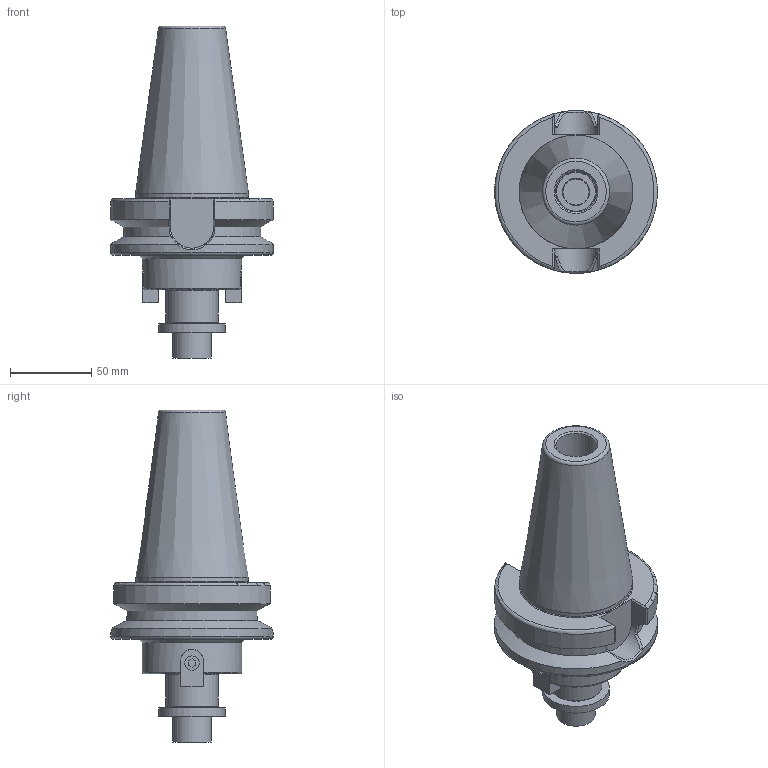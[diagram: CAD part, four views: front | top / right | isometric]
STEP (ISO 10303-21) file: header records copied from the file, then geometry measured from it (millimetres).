
FILE_DESCRIPTION(/* description */ (''),/* implementation_level */ '2;1');
FILE_NAME(/* name */ 'Z:\Проектный отдел\Алена\Оправка фрезерная (патрон) BT50-FMB32-60\BT50-FMB32-60.stp',/* time_stamp */ '2024-01-26T16:30:36+03:00',/* author */ ('User'),/* organization */ (''),/* preprocessor_version */ 'ST-DEVELOPER v18',/* originating_system */ 'Autodesk Inventor 2020',/* authorisation */ '');
FILE_SCHEMA (('AUTOMOTIVE_DESIGN { 1 0 10303 214 3 1 1 }'));
Length unit declared in the file: millimetre
Products named in the file (4): BT50-FMB32-60; BT50-FMB32-60_1; шайба; юболт
Assembly tree (3 placements, depth 2):
  BT50-FMB32-60
    BT50-FMB32-60_1
    шайба
    юболт
Bounding box: 100 x 100 x 204 mm (x, y, z)
Volume: 527426.8 mm3; surface area: 71583.6 mm2
Topology: 3 solids, 3 shells, 127 faces, 346 edges, 236 vertices
Faces by surface type: plane 71, cylinder 23, bspline 14, cone 11, torus 8
Full cylindrical faces by diameter (mm): 8.8 x2, 16 x1, 16.5 x1, 17 x1, 23.8 x1, 24 x1, 25 x1, 32 x1, 41 x1, 61 x1, 69 x1, 100 x1
Entity records: 4816 total; most frequent: CARTESIAN_POINT 1491, ORIENTED_EDGE 692, DIRECTION 594, EDGE_CURVE 346, VERTEX_POINT 236, AXIS2_PLACEMENT_3D 215, LINE 164, VECTOR 164
